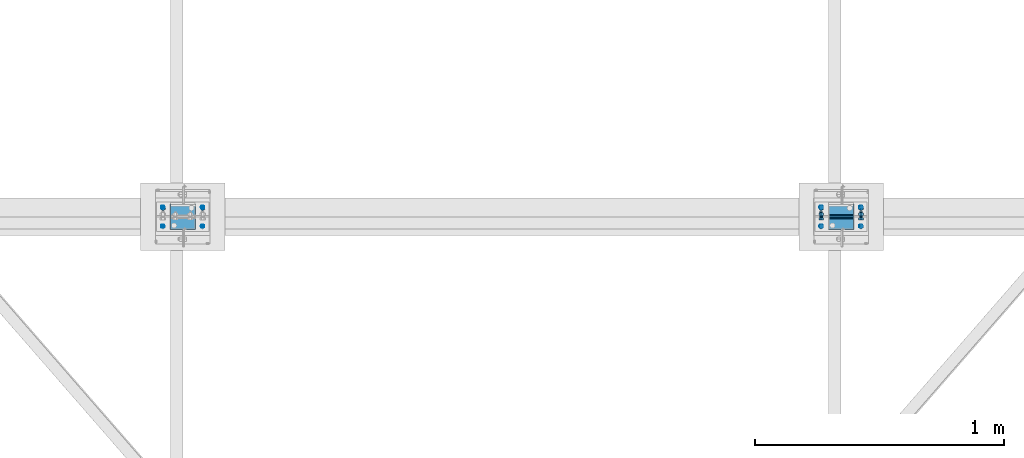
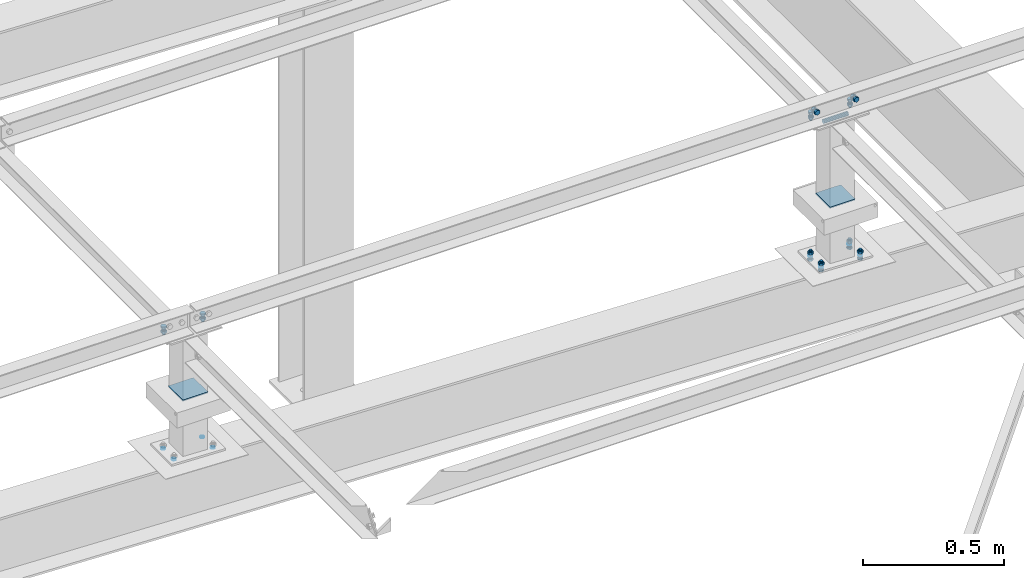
# One storey, part 176 of 3134: 9 mechanical fasteners, 6 elements without a shape of their own.
"""IFC2X3 building model written with IfcOpenShell, lengths in millimetres."""

from ifc_helpers import new_model, si_unit, frame, origin_with_axes, place, context, subcontext, project, spatial, faceted_brep, source, transform, mapped, material, type_object, element, aggregate, save


model = new_model("IFC2X3")

# Units and contexts
model_context = context("Model", 3, precision=1e-05, world=origin_with_axes())
body_context = subcontext(model_context, "Body", "Model", "MODEL_VIEW")
ifc_project = project(units=[si_unit("LENGTHUNIT", "METRE", prefix="MILLI"), si_unit("AREAUNIT", "SQUARE_METRE"), si_unit("VOLUMEUNIT", "CUBIC_METRE"), si_unit("MASSUNIT", "GRAM", prefix="KILO"), si_unit("TIMEUNIT", "SECOND"), si_unit("PLANEANGLEUNIT", "RADIAN"), si_unit("SOLIDANGLEUNIT", "STERADIAN"), si_unit("THERMODYNAMICTEMPERATUREUNIT", "DEGREE_CELSIUS"), si_unit("LUMINOUSINTENSITYUNIT", "LUMEN")], contexts=[model_context])

# Site, building, storey
site_placement = place(None, origin_with_axes())
site = spatial("IfcSite", under=ifc_project, at=site_placement, CompositionType="ELEMENT")
building_placement = place(site_placement, origin_with_axes())
building = spatial("IfcBuilding", under=site, at=building_placement, Name="Undefined", CompositionType="ELEMENT")
storey_placement = place(building_placement, origin_with_axes())
storey = spatial("IfcBuildingStorey", under=building, at=storey_placement, Name="Undefined", CompositionType="ELEMENT", Elevation=0.0)

# Assembly, mechanical fastener
assembly_1_placement = place(storey_placement, origin_with_axes())
assembly_1 = element("IfcElementAssembly", 1, at=assembly_1_placement, inside=storey, AssemblyPlace="NOTDEFINED", PredefinedType="RIGID_FRAME")
ifc_material_1 = material(Name="8.8")
mechanical_fastener_type = type_object("IfcMechanicalFastenerType", Name="Bolt assembly")
shared_shape_1 = source(origin_with_axes(), body_context, "Body", "Brep", [
    faceted_brep([(10.9696551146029, -14.0, 0.0), (5.48482755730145, -14.0, 9.5), (-5.48482755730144, -14.0, 9.5), (-10.9696551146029, -14.0, 1.34339530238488e-15), (-5.48482755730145, -14.0, -9.5), (5.48482755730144, -14.0, -9.50000000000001), (5.48482755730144, -6.0, -9.50000000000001), (-5.48482755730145, -6.0, -9.5), (-10.9696551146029, -6.0, 1.34339530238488e-15), (-5.48482755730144, -6.0, 9.5), (5.48482755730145, -6.0, 9.5), (10.9696551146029, -6.0, 0.0), (6.0, -6.0, 0.0), (5.19615242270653, -6.0, 3.00000000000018), (2.99999999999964, -6.0, 5.19615242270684), (-6.21801588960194e-13, -6.0, 6.0), (-3.00000000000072, -6.0, 5.19615242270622), (-5.19615242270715, -6.0, 2.9999999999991), (-6.0, -6.0, -1.24360317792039e-12), (-5.19615242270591, -6.0, -3.00000000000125), (-2.99999999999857, -6.0, -5.19615242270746), (1.85874342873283e-12, -6.0, -6.0), (3.00000000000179, -6.0, -5.1961524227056), (5.19615242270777, -6.0, -2.99999999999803), (5.19615242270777, 24.0, -2.99999999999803), (3.00000000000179, 24.0, -5.1961524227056), (1.85874342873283e-12, 24.0, -6.0), (-2.99999999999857, 24.0, -5.19615242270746), (-5.19615242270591, 24.0, -3.00000000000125), (-6.0, 24.0, -1.24360317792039e-12), (-5.19615242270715, 24.0, 2.9999999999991), (-3.00000000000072, 24.0, 5.19615242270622), (-6.21801588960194e-13, 24.0, 6.0), (2.99999999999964, 24.0, 5.19615242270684), (5.19615242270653, 24.0, 3.00000000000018), (6.0, 24.0, 0.0), (10.9696551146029, 6.00000000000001, 0.0), (5.48482755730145, 6.00000000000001, 9.5), (-5.48482755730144, 6.00000000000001, 9.5), (-10.9696551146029, 6.00000000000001, 1.34339530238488e-15), (-5.48482755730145, 6.00000000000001, -9.5), (5.48482755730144, 6.00000000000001, -9.50000000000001), (5.48482755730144, 16.0, -9.50000000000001), (-5.48482755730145, 16.0, -9.5), (-10.9696551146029, 16.0, 1.34339530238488e-15), (-5.48482755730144, 16.0, 9.5), (5.48482755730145, 16.0, 9.5), (10.9696551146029, 16.0, 0.0)], [[[0, 1, 2, 3, 4, 5]], [[6, 7, 8, 9, 10, 11]], [[0, 11, 10, 1]], [[1, 10, 9, 2]], [[2, 9, 8, 3]], [[3, 8, 7, 4]], [[4, 7, 6, 5]], [[5, 6, 11, 0]], [[12, 13, 14, 15, 16, 17, 18, 19, 20, 21, 22, 23]], [[24, 25, 26, 27, 28, 29, 30, 31, 32, 33, 34, 35]], [[12, 35, 34, 13]], [[13, 34, 33, 14]], [[14, 33, 32, 15]], [[15, 32, 31, 16]], [[16, 31, 30, 17]], [[17, 30, 29, 18]], [[18, 29, 28, 19]], [[19, 28, 27, 20]], [[20, 27, 26, 21]], [[21, 26, 25, 22]], [[22, 25, 24, 23]], [[23, 24, 35, 12]], [[36, 37, 38, 39, 40, 41]], [[42, 43, 44, 45, 46, 47]], [[36, 47, 46, 37]], [[37, 46, 45, 38]], [[38, 45, 44, 39]], [[39, 44, 43, 40]], [[40, 43, 42, 41]], [[41, 42, 47, 36]]]),
    faceted_brep([(7.0, -0.1, 0.0), (6.06217782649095, -0.1, 3.50000000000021), (3.49999999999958, -0.1, 6.06217782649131), (-7.25435187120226e-13, -0.1, 7.0), (-3.50000000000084, -0.1, 6.06217782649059), (-6.06217782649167, -0.1, 3.49999999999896), (-7.0, -0.1, -1.45087037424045e-12), (-6.06217782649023, -0.1, -3.50000000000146), (-3.49999999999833, -0.1, -6.06217782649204), (2.1685340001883e-12, -0.1, -7.0), (3.50000000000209, -0.1, -6.06217782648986), (6.0621778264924, -0.1, -3.4999999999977), (6.0621778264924, 6.00000000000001, -3.4999999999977), (3.50000000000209, 6.00000000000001, -6.06217782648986), (2.1685340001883e-12, 6.00000000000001, -7.0), (-3.49999999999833, 6.00000000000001, -6.06217782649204), (-6.06217782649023, 6.00000000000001, -3.50000000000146), (-7.0, 6.00000000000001, -1.45087037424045e-12), (-6.06217782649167, 6.00000000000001, 3.49999999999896), (-3.50000000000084, 6.00000000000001, 6.06217782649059), (-7.25435187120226e-13, 6.00000000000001, 7.0), (3.49999999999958, 6.00000000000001, 6.06217782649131), (6.06217782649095, 6.00000000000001, 3.50000000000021), (7.0, 6.00000000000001, 0.0), (7.0, -5.9, 0.0), (6.06217782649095, -5.9, 3.50000000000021), (3.49999999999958, -5.9, 6.06217782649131), (-7.25435187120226e-13, -5.9, 7.0), (-3.50000000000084, -5.9, 6.06217782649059), (-6.06217782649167, -5.9, 3.49999999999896), (-7.0, -5.9, -1.45087037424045e-12), (-6.06217782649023, -5.9, -3.50000000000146), (-3.49999999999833, -5.9, -6.06217782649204), (2.1685340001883e-12, -5.9, -7.0), (3.50000000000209, -5.9, -6.06217782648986), (6.0621778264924, -5.9, -3.4999999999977), (6.0621778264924, 0.0999999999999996, -3.4999999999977), (3.50000000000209, 0.0999999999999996, -6.06217782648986), (2.1685340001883e-12, 0.0999999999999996, -7.0), (-3.49999999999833, 0.0999999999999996, -6.06217782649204), (-6.06217782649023, 0.0999999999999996, -3.50000000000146), (-7.0, 0.0999999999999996, -1.45087037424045e-12), (-6.06217782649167, 0.0999999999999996, 3.49999999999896), (-3.50000000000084, 0.0999999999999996, 6.06217782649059), (-7.25435187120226e-13, 0.0999999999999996, 7.0), (3.49999999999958, 0.0999999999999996, 6.06217782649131), (6.06217782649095, 0.0999999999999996, 3.50000000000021), (7.0, 0.0999999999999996, 0.0)], [[[0, 1, 2, 3, 4, 5, 6, 7, 8, 9, 10, 11]], [[12, 13, 14, 15, 16, 17, 18, 19, 20, 21, 22, 23]], [[0, 23, 22, 1]], [[1, 22, 21, 2]], [[2, 21, 20, 3]], [[3, 20, 19, 4]], [[4, 19, 18, 5]], [[5, 18, 17, 6]], [[6, 17, 16, 7]], [[7, 16, 15, 8]], [[8, 15, 14, 9]], [[9, 14, 13, 10]], [[10, 13, 12, 11]], [[11, 12, 23, 0]], [[24, 25, 26, 27, 28, 29, 30, 31, 32, 33, 34, 35]], [[36, 37, 38, 39, 40, 41, 42, 43, 44, 45, 46, 47]], [[24, 47, 46, 25]], [[25, 46, 45, 26]], [[26, 45, 44, 27]], [[27, 44, 43, 28]], [[28, 43, 42, 29]], [[29, 42, 41, 30]], [[30, 41, 40, 31]], [[31, 40, 39, 32]], [[32, 39, 38, 33]], [[33, 38, 37, 34]], [[34, 37, 36, 35]], [[35, 36, 47, 24]]]),
])
mechanical_fastener_1_placement = place(assembly_1_placement, frame((8340.0, 34947.5, 4365.0), z_axis=(1.0, 0.0, 0.0), x_axis=(0.0, -1.0, 0.0)))
mechanical_fastener_1 = element("IfcMechanicalFastener", 2, at=mechanical_fastener_1_placement, type_object=mechanical_fastener_type, material=ifc_material_1, Name="Bolt assembly", NominalDiameter=12.0, NominalLength=30.0, context=body_context, shape_type="MappedRepresentation", body=[
    mapped(shared_shape_1, transform((0.0, -5.32963895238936e-10, -79.9999999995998))),
    mapped(shared_shape_1, transform((0.0, 5.3114490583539e-10, 79.9999999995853))),
])

assembly_2_placement = place(storey_placement, origin_with_axes())
assembly_2 = element("IfcElementAssembly", 3, at=assembly_2_placement, inside=storey, AssemblyPlace="NOTDEFINED", PredefinedType="RIGID_FRAME")
mechanical_fastener_2_placement = place(assembly_2_placement, frame((5691.67, 34947.5, 4365.0), z_axis=(1.0, 0.0, 0.0), x_axis=(0.0, -1.0, 0.0)))
mechanical_fastener_2 = element("IfcMechanicalFastener", 4, at=mechanical_fastener_2_placement, type_object=mechanical_fastener_type, material=ifc_material_1, Name="Bolt assembly", NominalDiameter=12.0, NominalLength=30.0, context=body_context, shape_type="MappedRepresentation", body=[
    mapped(shared_shape_1, transform((0.0, -5.32963895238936e-10, -79.9999999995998))),
    mapped(shared_shape_1, transform((0.0, 5.3114490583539e-10, 79.9999999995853))),
])
aggregate(assembly_2, [mechanical_fastener_2])

assembly_3_placement = place(storey_placement, origin_with_axes())
assembly_3 = element("IfcElementAssembly", 5, at=assembly_3_placement, inside=storey, AssemblyPlace="NOTDEFINED", PredefinedType="RIGID_FRAME")
shared_shape_2 = source(origin_with_axes(), body_context, "Body", "Brep", [
    faceted_brep([(10.9696551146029, -4.18346828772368, 0.0), (5.48482755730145, -4.18346828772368, 9.5), (-5.48482755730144, -4.18346828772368, 9.5), (-10.9696551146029, -4.18346828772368, 1.34339530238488e-15), (-5.48482755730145, -4.18346828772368, -9.5), (5.48482755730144, -4.18346828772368, -9.50000000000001), (5.48482755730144, 3.81653171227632, -9.50000000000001), (-5.48482755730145, 3.81653171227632, -9.5), (-10.9696551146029, 3.81653171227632, 1.34339530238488e-15), (-5.48482755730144, 3.81653171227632, 9.5), (5.48482755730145, 3.81653171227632, 9.5), (10.9696551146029, 3.81653171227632, 0.0), (6.0, 3.81653171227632, 0.0), (5.19615242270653, 3.81653171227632, 3.00000000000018), (2.99999999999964, 3.81653171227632, 5.19615242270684), (-6.21801588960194e-13, 3.81653171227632, 6.0), (-3.00000000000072, 3.81653171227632, 5.19615242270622), (-5.19615242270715, 3.81653171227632, 2.9999999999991), (-6.0, 3.81653171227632, -1.24360317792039e-12), (-5.19615242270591, 3.81653171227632, -3.00000000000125), (-2.99999999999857, 3.81653171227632, -5.19615242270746), (1.85874342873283e-12, 3.81653171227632, -6.0), (3.00000000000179, 3.81653171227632, -5.1961524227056), (5.19615242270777, 3.81653171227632, -2.99999999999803), (5.19615242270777, 38.8165317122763, -2.99999999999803), (3.00000000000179, 38.8165317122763, -5.1961524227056), (1.85874342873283e-12, 38.8165317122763, -6.0), (-2.99999999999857, 38.8165317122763, -5.19615242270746), (-5.19615242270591, 38.8165317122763, -3.00000000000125), (-6.0, 38.8165317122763, -1.24360317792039e-12), (-5.19615242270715, 38.8165317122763, 2.9999999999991), (-3.00000000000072, 38.8165317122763, 5.19615242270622), (-6.21801588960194e-13, 38.8165317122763, 6.0), (2.99999999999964, 38.8165317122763, 5.19615242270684), (5.19615242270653, 38.8165317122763, 3.00000000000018), (6.0, 38.8165317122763, 0.0), (10.9696551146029, 23.0139082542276, 0.0), (5.48482755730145, 23.0139082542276, 9.5), (-5.48482755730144, 23.0139082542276, 9.5), (-10.9696551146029, 23.0139082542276, 1.34339530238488e-15), (-5.48482755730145, 23.0139082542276, -9.5), (5.48482755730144, 23.0139082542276, -9.50000000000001), (5.48482755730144, 33.0139082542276, -9.50000000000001), (-5.48482755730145, 33.0139082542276, -9.5), (-10.9696551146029, 33.0139082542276, 1.34339530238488e-15), (-5.48482755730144, 33.0139082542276, 9.5), (5.48482755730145, 33.0139082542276, 9.5), (10.9696551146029, 33.0139082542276, 0.0)], [[[0, 1, 2, 3, 4, 5]], [[6, 7, 8, 9, 10, 11]], [[0, 11, 10, 1]], [[1, 10, 9, 2]], [[2, 9, 8, 3]], [[3, 8, 7, 4]], [[4, 7, 6, 5]], [[5, 6, 11, 0]], [[12, 13, 14, 15, 16, 17, 18, 19, 20, 21, 22, 23]], [[24, 25, 26, 27, 28, 29, 30, 31, 32, 33, 34, 35]], [[12, 35, 34, 13]], [[13, 34, 33, 14]], [[14, 33, 32, 15]], [[15, 32, 31, 16]], [[16, 31, 30, 17]], [[17, 30, 29, 18]], [[18, 29, 28, 19]], [[19, 28, 27, 20]], [[20, 27, 26, 21]], [[21, 26, 25, 22]], [[22, 25, 24, 23]], [[23, 24, 35, 12]], [[36, 37, 38, 39, 40, 41]], [[42, 43, 44, 45, 46, 47]], [[36, 47, 46, 37]], [[37, 46, 45, 38]], [[38, 45, 44, 39]], [[39, 44, 43, 40]], [[40, 43, 42, 41]], [[41, 42, 47, 36]]]),
    faceted_brep([(7.0, 3.91653171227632, 0.0), (6.06217782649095, 3.91653171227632, 3.50000000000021), (3.49999999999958, 3.91653171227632, 6.06217782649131), (-7.25435187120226e-13, 3.91653171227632, 7.0), (-3.50000000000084, 3.91653171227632, 6.06217782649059), (-6.06217782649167, 3.91653171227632, 3.49999999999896), (-7.0, 3.91653171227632, -1.45087037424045e-12), (-6.06217782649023, 3.91653171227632, -3.50000000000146), (-3.49999999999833, 3.91653171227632, -6.06217782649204), (2.1685340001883e-12, 3.91653171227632, -7.0), (3.50000000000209, 3.91653171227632, -6.06217782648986), (6.0621778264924, 3.91653171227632, -3.4999999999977), (6.0621778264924, 13.1165315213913, -3.4999999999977), (3.50000000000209, 13.1165315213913, -6.06217782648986), (2.1685340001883e-12, 13.1165315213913, -7.0), (-3.49999999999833, 13.1165315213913, -6.06217782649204), (-6.06217782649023, 13.1165315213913, -3.50000000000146), (-7.0, 13.1165315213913, -1.45087037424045e-12), (-6.06217782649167, 13.1165315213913, 3.49999999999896), (-3.50000000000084, 13.1165315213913, 6.06217782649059), (-7.25435187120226e-13, 13.1165315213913, 7.0), (3.49999999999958, 13.1165315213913, 6.06217782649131), (6.06217782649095, 13.1165315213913, 3.50000000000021), (7.0, 13.1165315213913, 0.0), (7.0, 14.9139082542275, 0.0), (6.06217782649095, 14.9139082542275, 3.50000000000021), (3.49999999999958, 14.9139082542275, 6.06217782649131), (-7.25435187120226e-13, 14.9139082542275, 7.0), (-3.50000000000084, 14.9139082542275, 6.06217782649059), (-6.06217782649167, 14.9139082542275, 3.49999999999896), (-7.0, 14.9139082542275, -1.45087037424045e-12), (-6.06217782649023, 14.9139082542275, -3.50000000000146), (-3.49999999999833, 14.9139082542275, -6.06217782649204), (2.1685340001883e-12, 14.9139082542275, -7.0), (3.50000000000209, 14.9139082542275, -6.06217782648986), (6.0621778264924, 14.9139082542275, -3.4999999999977), (6.0621778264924, 23.0139082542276, -3.4999999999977), (3.50000000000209, 23.0139082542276, -6.06217782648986), (2.1685340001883e-12, 23.0139082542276, -7.0), (-3.49999999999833, 23.0139082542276, -6.06217782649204), (-6.06217782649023, 23.0139082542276, -3.50000000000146), (-7.0, 23.0139082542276, -1.45087037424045e-12), (-6.06217782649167, 23.0139082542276, 3.49999999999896), (-3.50000000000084, 23.0139082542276, 6.06217782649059), (-7.25435187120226e-13, 23.0139082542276, 7.0), (3.49999999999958, 23.0139082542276, 6.06217782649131), (6.06217782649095, 23.0139082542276, 3.50000000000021), (7.0, 23.0139082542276, 0.0)], [[[0, 1, 2, 3, 4, 5, 6, 7, 8, 9, 10, 11]], [[12, 13, 14, 15, 16, 17, 18, 19, 20, 21, 22, 23]], [[0, 23, 22, 1]], [[1, 22, 21, 2]], [[2, 21, 20, 3]], [[3, 20, 19, 4]], [[4, 19, 18, 5]], [[5, 18, 17, 6]], [[6, 17, 16, 7]], [[7, 16, 15, 8]], [[8, 15, 14, 9]], [[9, 14, 13, 10]], [[10, 13, 12, 11]], [[11, 12, 23, 0]], [[24, 25, 26, 27, 28, 29, 30, 31, 32, 33, 34, 35]], [[36, 37, 38, 39, 40, 41, 42, 43, 44, 45, 46, 47]], [[24, 47, 46, 25]], [[25, 46, 45, 26]], [[26, 45, 44, 27]], [[27, 44, 43, 28]], [[28, 43, 42, 29]], [[29, 42, 41, 30]], [[30, 41, 40, 31]], [[31, 40, 39, 32]], [[32, 39, 38, 33]], [[33, 38, 37, 34]], [[34, 37, 36, 35]], [[35, 36, 47, 24]]]),
])
mechanical_fastener_3_placement = place(assembly_3_placement, frame((8339.1931765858, 34950.4999999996, 3735.10000668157), z_axis=(-0.999387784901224, 0.0, 0.0349865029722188), x_axis=(0.0, -1.0, 0.0)))
mechanical_fastener_3 = element("IfcMechanicalFastener", 6, at=mechanical_fastener_3_placement, type_object=mechanical_fastener_type, material=ifc_material_1, Name="Bolt assembly", NominalDiameter=12.0, NominalLength=35.0, context=body_context, shape_type="MappedRepresentation", body=[
    mapped(shared_shape_2, transform((0.0, -5.32963895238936e-10, -79.9999999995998))),
    mapped(shared_shape_2, transform((76.0, -5.32963895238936e-10, -79.9999999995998))),
    mapped(shared_shape_2, transform((0.0, 5.3114490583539e-10, 79.9999999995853))),
    mapped(shared_shape_2, transform((76.0, 5.3114490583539e-10, 79.9999999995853))),
])

assembly_4_placement = place(storey_placement, origin_with_axes())
assembly_4 = element("IfcElementAssembly", 7, at=assembly_4_placement, inside=storey, AssemblyPlace="NOTDEFINED", PredefinedType="RIGID_FRAME")
shared_shape_3 = source(origin_with_axes(), body_context, "Body", "Brep", [
    faceted_brep([(7.0, 13.0000253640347, 0.0), (6.06217782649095, 13.0000253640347, 3.50000000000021), (3.49999999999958, 13.0000253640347, 6.06217782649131), (-7.25435187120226e-13, 13.0000253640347, 7.0), (-3.50000000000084, 13.0000253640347, 6.06217782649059), (-6.06217782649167, 13.0000253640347, 3.49999999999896), (-7.0, 13.0000253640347, -1.45087037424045e-12), (-6.06217782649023, 13.0000253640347, -3.50000000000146), (-3.49999999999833, 13.0000253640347, -6.06217782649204), (2.1685340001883e-12, 13.0000253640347, -7.0), (3.50000000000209, 13.0000253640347, -6.06217782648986), (6.0621778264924, 13.0000253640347, -3.4999999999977), (6.0621778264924, 15.0999999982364, -3.4999999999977), (3.50000000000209, 15.0999999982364, -6.06217782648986), (2.1685340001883e-12, 15.0999999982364, -7.0), (-3.49999999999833, 15.0999999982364, -6.06217782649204), (-6.06217782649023, 15.0999999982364, -3.50000000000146), (-7.0, 15.0999999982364, -1.45087037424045e-12), (-6.06217782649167, 15.0999999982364, 3.49999999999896), (-3.50000000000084, 15.0999999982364, 6.06217782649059), (-7.25435187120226e-13, 15.0999999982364, 7.0), (3.49999999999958, 15.0999999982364, 6.06217782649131), (6.06217782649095, 15.0999999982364, 3.50000000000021), (7.0, 15.0999999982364, 0.0)], [[[0, 1, 2, 3, 4, 5, 6, 7, 8, 9, 10, 11]], [[12, 13, 14, 15, 16, 17, 18, 19, 20, 21, 22, 23]], [[0, 23, 22, 1]], [[1, 22, 21, 2]], [[2, 21, 20, 3]], [[3, 20, 19, 4]], [[4, 19, 18, 5]], [[5, 18, 17, 6]], [[6, 17, 16, 7]], [[7, 16, 15, 8]], [[8, 15, 14, 9]], [[9, 14, 13, 10]], [[10, 13, 12, 11]], [[11, 12, 23, 0]]]),
])
mechanical_fastener_4_placement = place(assembly_4_placement, frame((5690.86474073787, 34950.4999999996, 3827.79222028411), z_axis=(-0.999387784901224, 0.0, 0.0349865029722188), x_axis=(0.0, -1.0, 0.0)))
mechanical_fastener_4 = element("IfcMechanicalFastener", 8, at=mechanical_fastener_4_placement, type_object=mechanical_fastener_type, material=ifc_material_1, Name="Bolt assembly", NominalDiameter=12.0, NominalLength=2.0, context=body_context, shape_type="MappedRepresentation", body=[
    mapped(shared_shape_3, transform((0.0, -5.32963895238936e-10, -79.9999999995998))),
    mapped(shared_shape_3, transform((76.0, -5.32963895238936e-10, -79.9999999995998))),
    mapped(shared_shape_3, transform((0.0, 5.3114490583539e-10, 79.9999999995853))),
    mapped(shared_shape_3, transform((76.0, 5.3114490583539e-10, 79.9999999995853))),
])
aggregate(assembly_4, [mechanical_fastener_4])

assembly_5_placement = place(storey_placement, origin_with_axes())
assembly_5 = element("IfcElementAssembly", 9, at=assembly_5_placement, inside=storey, AssemblyPlace="NOTDEFINED", PredefinedType="RIGID_FRAME")
mechanical_fastener_5_placement = place(assembly_5_placement, frame((8339.1931765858, 34950.4999999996, 3735.10000668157), z_axis=(-0.999387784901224, 0.0, 0.0349865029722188), x_axis=(0.0, -1.0, 0.0)))
mechanical_fastener_5 = element("IfcMechanicalFastener", 10, at=mechanical_fastener_5_placement, type_object=mechanical_fastener_type, material=ifc_material_1, Name="Bolt assembly", NominalDiameter=12.0, NominalLength=2.0, context=body_context, shape_type="MappedRepresentation", body=[
    mapped(shared_shape_3, transform((0.0, -5.32963895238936e-10, -79.9999999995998))),
    mapped(shared_shape_3, transform((76.0, -5.32963895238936e-10, -79.9999999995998))),
    mapped(shared_shape_3, transform((0.0, 5.3114490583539e-10, 79.9999999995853))),
    mapped(shared_shape_3, transform((76.0, 5.3114490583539e-10, 79.9999999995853))),
])
aggregate(assembly_5, [mechanical_fastener_5])

# Mechanical fastener
shared_shape_4 = source(origin_with_axes(), body_context, "Body", "Brep", [
    faceted_brep([(9.0, -50.0, 0.0), (7.79422863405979, -50.0, 4.50000000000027), (4.49999999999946, -50.0, 7.79422863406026), (-9.3270238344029e-13, -50.0, 9.0), (-4.50000000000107, -50.0, 7.79422863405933), (-7.79422863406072, -50.0, 4.49999999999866), (-9.0, -50.0, -1.86540476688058e-12), (-7.79422863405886, -50.0, -4.50000000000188), (-4.49999999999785, -50.0, -7.79422863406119), (2.78811514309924e-12, -50.0, -9.0), (4.50000000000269, -50.0, -7.7942286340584), (7.79422863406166, -50.0, -4.49999999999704), (7.79422863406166, 50.1, -4.49999999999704), (4.50000000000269, 50.1, -7.7942286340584), (2.78811514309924e-12, 50.1, -9.0), (-4.49999999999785, 50.1, -7.79422863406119), (-7.79422863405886, 50.1, -4.50000000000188), (-9.0, 50.1, -1.86540476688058e-12), (-7.79422863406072, 50.1, 4.49999999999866), (-4.50000000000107, 50.1, 7.79422863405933), (-9.3270238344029e-13, 50.1, 9.0), (4.49999999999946, 50.1, 7.79422863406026), (7.79422863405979, 50.1, 4.50000000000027), (9.0, 50.1, 0.0)], [[[0, 1, 2, 3, 4, 5, 6, 7, 8, 9, 10, 11]], [[12, 13, 14, 15, 16, 17, 18, 19, 20, 21, 22, 23]], [[0, 23, 22, 1]], [[1, 22, 21, 2]], [[2, 21, 20, 3]], [[3, 20, 19, 4]], [[4, 19, 18, 5]], [[5, 18, 17, 6]], [[6, 17, 16, 7]], [[7, 16, 15, 8]], [[8, 15, 14, 9]], [[9, 14, 13, 10]], [[10, 13, 12, 11]], [[11, 12, 23, 0]]]),
])
mechanical_fastener_6_placement = place(assembly_3_placement, frame((8340.0, 34912.5, 4345.0), z_axis=(0.0, 1.0, 0.0), x_axis=(0.0, 0.0, 1.0)))
mechanical_fastener_6 = element("IfcMechanicalFastener", 11, at=mechanical_fastener_6_placement, type_object=mechanical_fastener_type, material=ifc_material_1, Name="Bolt assembly", NominalDiameter=16.0, NominalLength=100.0, context=body_context, shape_type="MappedRepresentation", body=[
    mapped(shared_shape_4, transform((0.0, 0.0, 0.0))),
])

# Assembly, mechanical fastener
assembly_6_placement = place(storey_placement, origin_with_axes())
assembly_6 = element("IfcElementAssembly", 12, at=assembly_6_placement, inside=storey, AssemblyPlace="NOTDEFINED", PredefinedType="RIGID_FRAME")
ifc_material_2 = material(Name="6.8")
shared_shape_5 = source(origin_with_axes(), body_context, "Body", "Brep", [
    faceted_brep([(51.5, 1.36424205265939e-12, 50.0), (51.3858192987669, 1.36424205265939e-12, 50.5740251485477), (51.0606601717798, 1.36424205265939e-12, 51.0606601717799), (50.5740251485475, 1.36424205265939e-12, 51.385819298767), (-50.0000000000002, 1.36424205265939e-12, 51.5), (-50.7500000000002, 1.36424205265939e-12, 51.2990381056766), (-51.2990381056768, 1.36424205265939e-12, 50.7499999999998), (-51.5, 1.36424205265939e-12, 49.9999999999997), (-51.5, 1.36424205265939e-12, -50.0000000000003), (-51.2990381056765, 1.36424205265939e-12, -50.7500000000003), (-50.7499999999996, 1.36424205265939e-12, -51.2990381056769), (-49.9999999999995, 1.36424205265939e-12, -51.5), (50.0000000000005, 1.36424205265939e-12, -51.5), (50.7500000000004, 1.36424205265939e-12, -51.2990381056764), (51.2990381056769, 1.36424205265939e-12, -50.7499999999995), (51.5, 1.36424205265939e-12, -49.9999999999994), (51.5, 5.10000000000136, -49.9999999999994), (51.2990381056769, 5.10000000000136, -50.7499999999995), (50.7500000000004, 5.10000000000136, -51.2990381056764), (50.0000000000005, 5.10000000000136, -51.5), (-49.9999999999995, 5.10000000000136, -51.5), (-50.7499999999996, 5.10000000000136, -51.2990381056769), (-51.2990381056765, 5.10000000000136, -50.7500000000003), (-51.5, 5.10000000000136, -50.0000000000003), (-51.5, 5.10000000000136, 49.9999999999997), (-51.2990381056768, 5.10000000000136, 50.7499999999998), (-50.7500000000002, 5.10000000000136, 51.2990381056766), (-50.0000000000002, 5.10000000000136, 51.5), (50.5740251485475, 5.10000000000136, 51.385819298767), (51.0606601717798, 5.10000000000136, 51.0606601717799), (51.3858192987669, 5.10000000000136, 50.5740251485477), (51.5, 5.10000000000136, 50.0)], [[[0, 1, 2, 3, 4, 5, 6, 7, 8, 9, 10, 11, 12, 13, 14, 15]], [[16, 17, 18, 19, 20, 21, 22, 23, 24, 25, 26, 27, 28, 29, 30, 31]], [[0, 31, 30, 1]], [[1, 30, 29, 2]], [[2, 29, 28, 3]], [[3, 28, 27, 4]], [[4, 27, 26, 5]], [[5, 26, 25, 6]], [[6, 25, 24, 7]], [[7, 24, 23, 8]], [[8, 23, 22, 9]], [[9, 22, 21, 10]], [[10, 21, 20, 11]], [[11, 20, 19, 12]], [[12, 19, 18, 13]], [[13, 18, 17, 14]], [[14, 17, 16, 15]], [[15, 16, 31, 0]]]),
])
mechanical_fastener_7_placement = place(assembly_6_placement, frame((5691.66156415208, 34912.5, 4097.5922136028), z_axis=(0.0, -1.0, 0.0), x_axis=(-1.0, 0.0, 0.0)))
mechanical_fastener_7 = element("IfcMechanicalFastener", 13, at=mechanical_fastener_7_placement, type_object=mechanical_fastener_type, material=ifc_material_2, Name="Bolt assembly", NominalDiameter=10.0, NominalLength=5.0, context=body_context, shape_type="MappedRepresentation", body=[
    mapped(shared_shape_5, transform((0.0, 0.0, 0.0))),
])
aggregate(assembly_6, [mechanical_fastener_7])

# Mechanical fastener
mechanical_fastener_8_placement = place(assembly_3_placement, frame((8340.0, 34912.5, 4004.89), z_axis=(0.0, -1.0, 0.0), x_axis=(-1.0, 0.0, 0.0)))
mechanical_fastener_8 = element("IfcMechanicalFastener", 14, at=mechanical_fastener_8_placement, type_object=mechanical_fastener_type, material=ifc_material_2, Name="Bolt assembly", NominalDiameter=10.0, NominalLength=5.0, context=body_context, shape_type="MappedRepresentation", body=[
    mapped(shared_shape_5, transform((0.0, 0.0, 0.0))),
])

aggregate(assembly_3, [mechanical_fastener_3, mechanical_fastener_6, mechanical_fastener_8])

shared_shape_6 = source(origin_with_axes(), body_context, "Body", "Brep", [
    faceted_brep([(10.9696551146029, -12.0, 0.0), (5.48482755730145, -12.0, 9.5), (-5.48482755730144, -12.0, 9.5), (-10.9696551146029, -12.0, 1.34339530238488e-15), (-5.48482755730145, -12.0, -9.5), (5.48482755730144, -12.0, -9.50000000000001), (5.48482755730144, -4.0, -9.50000000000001), (-5.48482755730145, -4.0, -9.5), (-10.9696551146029, -4.0, 1.34339530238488e-15), (-5.48482755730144, -4.0, 9.5), (5.48482755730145, -4.0, 9.5), (10.9696551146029, -4.0, 0.0), (6.0, -4.0, 0.0), (5.19615242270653, -4.0, 3.00000000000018), (2.99999999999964, -4.0, 5.19615242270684), (-6.21801588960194e-13, -4.0, 6.0), (-3.00000000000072, -4.0, 5.19615242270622), (-5.19615242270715, -4.0, 2.9999999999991), (-6.0, -4.0, -1.24360317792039e-12), (-5.19615242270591, -4.0, -3.00000000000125), (-2.99999999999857, -4.0, -5.19615242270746), (1.85874342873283e-12, -4.0, -6.0), (3.00000000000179, -4.0, -5.1961524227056), (5.19615242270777, -4.0, -2.99999999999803), (5.19615242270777, 21.0, -2.99999999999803), (3.00000000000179, 21.0, -5.1961524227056), (1.85874342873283e-12, 21.0, -6.0), (-2.99999999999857, 21.0, -5.19615242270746), (-5.19615242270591, 21.0, -3.00000000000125), (-6.0, 21.0, -1.24360317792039e-12), (-5.19615242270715, 21.0, 2.9999999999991), (-3.00000000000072, 21.0, 5.19615242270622), (-6.21801588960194e-13, 21.0, 6.0), (2.99999999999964, 21.0, 5.19615242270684), (5.19615242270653, 21.0, 3.00000000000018), (6.0, 21.0, 0.0), (10.9696551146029, 6.00000000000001, 0.0), (5.48482755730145, 6.00000000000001, 9.5), (-5.48482755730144, 6.00000000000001, 9.5), (-10.9696551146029, 6.00000000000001, 1.34339530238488e-15), (-5.48482755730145, 6.00000000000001, -9.5), (5.48482755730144, 6.00000000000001, -9.50000000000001), (5.48482755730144, 16.0, -9.50000000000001), (-5.48482755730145, 16.0, -9.5), (-10.9696551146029, 16.0, 1.34339530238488e-15), (-5.48482755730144, 16.0, 9.5), (5.48482755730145, 16.0, 9.5), (10.9696551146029, 16.0, 0.0)], [[[0, 1, 2, 3, 4, 5]], [[6, 7, 8, 9, 10, 11]], [[0, 11, 10, 1]], [[1, 10, 9, 2]], [[2, 9, 8, 3]], [[3, 8, 7, 4]], [[4, 7, 6, 5]], [[5, 6, 11, 0]], [[12, 13, 14, 15, 16, 17, 18, 19, 20, 21, 22, 23]], [[24, 25, 26, 27, 28, 29, 30, 31, 32, 33, 34, 35]], [[12, 35, 34, 13]], [[13, 34, 33, 14]], [[14, 33, 32, 15]], [[15, 32, 31, 16]], [[16, 31, 30, 17]], [[17, 30, 29, 18]], [[18, 29, 28, 19]], [[19, 28, 27, 20]], [[20, 27, 26, 21]], [[21, 26, 25, 22]], [[22, 25, 24, 23]], [[23, 24, 35, 12]], [[36, 37, 38, 39, 40, 41]], [[42, 43, 44, 45, 46, 47]], [[36, 47, 46, 37]], [[37, 46, 45, 38]], [[38, 45, 44, 39]], [[39, 44, 43, 40]], [[40, 43, 42, 41]], [[41, 42, 47, 36]]]),
    faceted_brep([(7.0, -3.9, 0.0), (6.06217782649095, -3.9, 3.50000000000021), (3.49999999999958, -3.9, 6.06217782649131), (-7.25435187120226e-13, -3.9, 7.0), (-3.50000000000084, -3.9, 6.06217782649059), (-6.06217782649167, -3.9, 3.49999999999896), (-7.0, -3.9, -1.45087037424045e-12), (-6.06217782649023, -3.9, -3.50000000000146), (-3.49999999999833, -3.9, -6.06217782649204), (2.1685340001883e-12, -3.9, -7.0), (3.50000000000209, -3.9, -6.06217782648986), (6.0621778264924, -3.9, -3.4999999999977), (6.0621778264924, 0.0999999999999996, -3.4999999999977), (3.50000000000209, 0.0999999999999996, -6.06217782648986), (2.1685340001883e-12, 0.0999999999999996, -7.0), (-3.49999999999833, 0.0999999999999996, -6.06217782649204), (-6.06217782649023, 0.0999999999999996, -3.50000000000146), (-7.0, 0.0999999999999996, -1.45087037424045e-12), (-6.06217782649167, 0.0999999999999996, 3.49999999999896), (-3.50000000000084, 0.0999999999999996, 6.06217782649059), (-7.25435187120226e-13, 0.0999999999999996, 7.0), (3.49999999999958, 0.0999999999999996, 6.06217782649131), (6.06217782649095, 0.0999999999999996, 3.50000000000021), (7.0, 0.0999999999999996, 0.0), (7.0, -0.1, 0.0), (6.06217782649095, -0.1, 3.50000000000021), (3.49999999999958, -0.1, 6.06217782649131), (-7.25435187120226e-13, -0.1, 7.0), (-3.50000000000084, -0.1, 6.06217782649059), (-6.06217782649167, -0.1, 3.49999999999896), (-7.0, -0.1, -1.45087037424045e-12), (-6.06217782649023, -0.1, -3.50000000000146), (-3.49999999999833, -0.1, -6.06217782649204), (2.1685340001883e-12, -0.1, -7.0), (3.50000000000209, -0.1, -6.06217782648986), (6.0621778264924, -0.1, -3.4999999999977), (6.0621778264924, 6.00000000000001, -3.4999999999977), (3.50000000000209, 6.00000000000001, -6.06217782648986), (2.1685340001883e-12, 6.00000000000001, -7.0), (-3.49999999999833, 6.00000000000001, -6.06217782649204), (-6.06217782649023, 6.00000000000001, -3.50000000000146), (-7.0, 6.00000000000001, -1.45087037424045e-12), (-6.06217782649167, 6.00000000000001, 3.49999999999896), (-3.50000000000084, 6.00000000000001, 6.06217782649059), (-7.25435187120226e-13, 6.00000000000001, 7.0), (3.49999999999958, 6.00000000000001, 6.06217782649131), (6.06217782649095, 6.00000000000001, 3.50000000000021), (7.0, 6.00000000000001, 0.0)], [[[0, 1, 2, 3, 4, 5, 6, 7, 8, 9, 10, 11]], [[12, 13, 14, 15, 16, 17, 18, 19, 20, 21, 22, 23]], [[0, 23, 22, 1]], [[1, 22, 21, 2]], [[2, 21, 20, 3]], [[3, 20, 19, 4]], [[4, 19, 18, 5]], [[5, 18, 17, 6]], [[6, 17, 16, 7]], [[7, 16, 15, 8]], [[8, 15, 14, 9]], [[9, 14, 13, 10]], [[10, 13, 12, 11]], [[11, 12, 23, 0]], [[24, 25, 26, 27, 28, 29, 30, 31, 32, 33, 34, 35]], [[36, 37, 38, 39, 40, 41, 42, 43, 44, 45, 46, 47]], [[24, 47, 46, 25]], [[25, 46, 45, 26]], [[26, 45, 44, 27]], [[27, 44, 43, 28]], [[28, 43, 42, 29]], [[29, 42, 41, 30]], [[30, 41, 40, 31]], [[31, 40, 39, 32]], [[32, 39, 38, 33]], [[33, 38, 37, 34]], [[34, 37, 36, 35]], [[35, 36, 47, 24]]]),
])
mechanical_fastener_9_placement = place(assembly_1_placement, frame((8340.0, 34912.5, 4400.0), z_axis=(1.0, 0.0, 0.0), x_axis=(0.0, 0.0, -1.0)))
mechanical_fastener_9 = element("IfcMechanicalFastener", 15, at=mechanical_fastener_9_placement, type_object=mechanical_fastener_type, material=ifc_material_1, Name="Bolt assembly", NominalDiameter=12.0, NominalLength=25.0, context=body_context, shape_type="MappedRepresentation", body=[
    mapped(shared_shape_6, transform((0.0, -5.32963895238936e-10, -79.9999999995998))),
    mapped(shared_shape_6, transform((0.0, 5.3114490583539e-10, 79.9999999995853))),
])

aggregate(assembly_1, [mechanical_fastener_1, mechanical_fastener_9])

save(model, "model.ifc")
